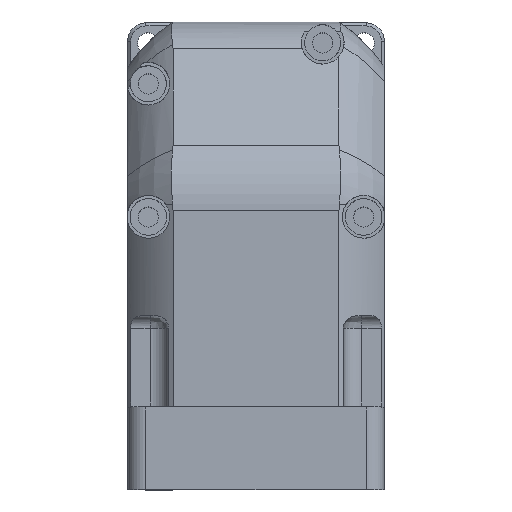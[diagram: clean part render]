
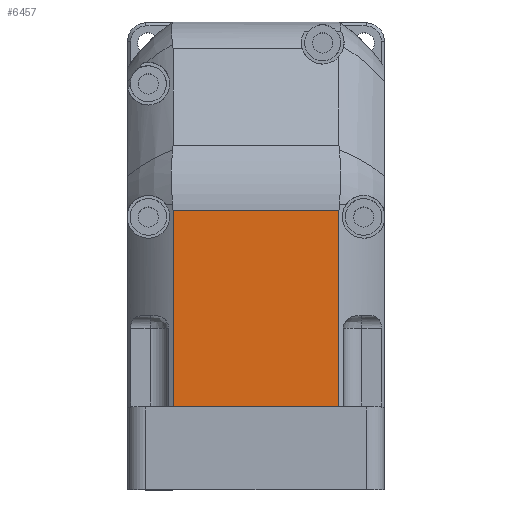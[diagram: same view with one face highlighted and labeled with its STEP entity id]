
A CAD part, top view. The second image highlights one B-rep face of the part: STEP entity #6457.
In plain terms, the highlighted planar face has unit normal (0, 0, 1) as drawn and (0, 0, -1) by its records, which use the part's own axes.
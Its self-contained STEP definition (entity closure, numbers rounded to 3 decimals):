
#5245=CARTESIAN_POINT('',(-13.565,-42.,0.0));
#5246=VERTEX_POINT('',#5245);
#5254=CARTESIAN_POINT('',(13.565,-42.,0.0));
#5255=VERTEX_POINT('',#5254);
#5256=CARTESIAN_POINT('',(13.565,-42.,0.0));
#5257=DIRECTION('',(-1.0,0.0,0.0));
#5258=VECTOR('',#5257,27.129);
#5259=LINE('',#5256,#5258);
#5260=EDGE_CURVE('',#5255,#5246,#5259,.T.);
#5987=CARTESIAN_POINT('',(-13.565,-9.816,0.));
#5988=VERTEX_POINT('',#5987);
#5996=CARTESIAN_POINT('',(-13.565,-42.,0.));
#5997=DIRECTION('',(0.0,1.0,0.0));
#5998=VECTOR('',#5997,32.184);
#5999=LINE('',#5996,#5998);
#6000=EDGE_CURVE('',#5246,#5988,#5999,.T.);
#6420=CARTESIAN_POINT('',(13.565,-9.816,0.));
#6421=VERTEX_POINT('',#6420);
#6429=CARTESIAN_POINT('',(13.565,-9.816,0.0));
#6430=DIRECTION('',(-1.0,0.0,0.0));
#6431=VECTOR('',#6430,27.129);
#6432=LINE('',#6429,#6431);
#6433=EDGE_CURVE('',#6421,#5988,#6432,.T.);
#6441=CARTESIAN_POINT('',(0.,0.,0.0));
#6442=DIRECTION('',(0.0,0.0,1.0));
#6443=DIRECTION('',(1.0,0.0,0.0));
#6444=AXIS2_PLACEMENT_3D('',#6441,#6442,#6443);
#6445=PLANE('',#6444);
#6446=ORIENTED_EDGE('',*,*,#5260,.T.);
#6447=ORIENTED_EDGE('',*,*,#6000,.T.);
#6448=ORIENTED_EDGE('',*,*,#6433,.F.);
#6449=CARTESIAN_POINT('',(13.565,-9.816,0.));
#6450=DIRECTION('',(0.0,-1.0,0.0));
#6451=VECTOR('',#6450,32.184);
#6452=LINE('',#6449,#6451);
#6453=EDGE_CURVE('',#6421,#5255,#6452,.T.);
#6454=ORIENTED_EDGE('',*,*,#6453,.T.);
#6455=EDGE_LOOP('',(#6446,#6447,#6448,#6454));
#6456=FACE_OUTER_BOUND('',#6455,.T.);
#6457=ADVANCED_FACE('',(#6456),#6445,.F.);
